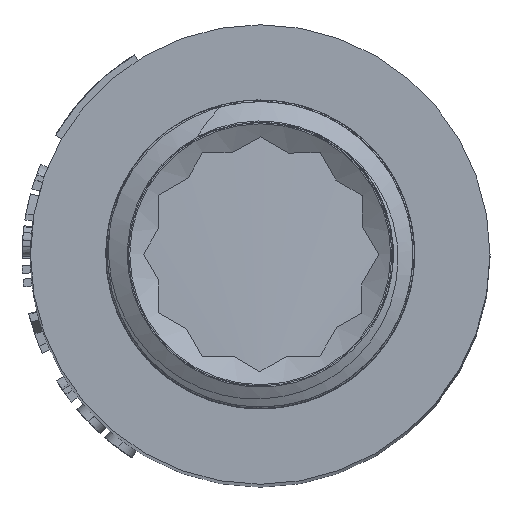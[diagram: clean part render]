
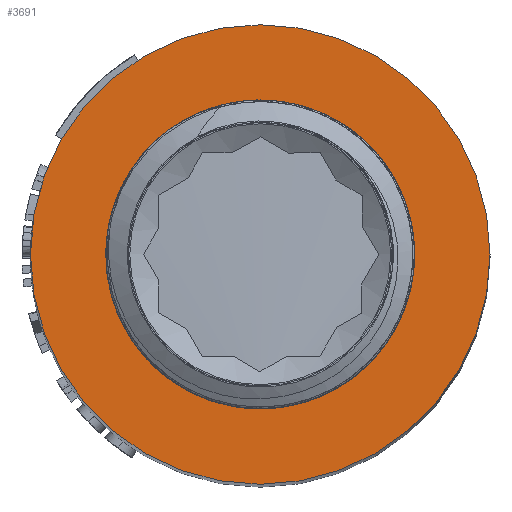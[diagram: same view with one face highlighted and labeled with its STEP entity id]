
A CAD part, top view. The second image highlights one B-rep face of the part: STEP entity #3691.
In plain terms, the highlighted planar face has unit normal (0, 0, 1).
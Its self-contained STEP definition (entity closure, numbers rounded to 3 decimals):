
#83=FACE_BOUND('',#831,.T.);
#448=PLANE('',#3942);
#605=FACE_OUTER_BOUND('',#830,.T.);
#830=EDGE_LOOP('',(#3121,#3122));
#831=EDGE_LOOP('',(#3123,#3124));
#1328=CIRCLE('',#3777,7.825);
#1331=CIRCLE('',#3780,7.825);
#1352=CIRCLE('',#3820,13.65);
#1353=CIRCLE('',#3821,13.65);
#1429=VERTEX_POINT('',#4725);
#1430=VERTEX_POINT('',#4726);
#1477=VERTEX_POINT('',#4973);
#1478=VERTEX_POINT('',#4974);
#1803=EDGE_CURVE('',#1429,#1430,#1328,.T.);
#1807=EDGE_CURVE('',#1430,#1429,#1331,.T.);
#1874=EDGE_CURVE('',#1477,#1478,#1352,.T.);
#1875=EDGE_CURVE('',#1478,#1477,#1353,.T.);
#3121=ORIENTED_EDGE('',*,*,#1874,.T.);
#3122=ORIENTED_EDGE('',*,*,#1875,.T.);
#3123=ORIENTED_EDGE('',*,*,#1803,.F.);
#3124=ORIENTED_EDGE('',*,*,#1807,.F.);
#3691=ADVANCED_FACE('',(#605,#83),#448,.T.);
#3777=AXIS2_PLACEMENT_3D('',#4727,#4024,#4025);
#3780=AXIS2_PLACEMENT_3D('',#4733,#4031,#4032);
#3820=AXIS2_PLACEMENT_3D('',#4975,#4147,#4148);
#3821=AXIS2_PLACEMENT_3D('',#4976,#4149,#4150);
#3942=AXIS2_PLACEMENT_3D('',#7280,#4529,#4530);
#4024=DIRECTION('center_axis',(0.,0.,1.));
#4025=DIRECTION('ref_axis',(1.,0.,0.));
#4031=DIRECTION('center_axis',(0.,0.,1.));
#4032=DIRECTION('ref_axis',(1.,0.,0.));
#4147=DIRECTION('center_axis',(0.,0.,1.));
#4148=DIRECTION('ref_axis',(1.,0.,0.));
#4149=DIRECTION('center_axis',(0.,0.,1.));
#4150=DIRECTION('ref_axis',(1.,0.,0.));
#4529=DIRECTION('center_axis',(0.,0.,1.));
#4530=DIRECTION('ref_axis',(1.,0.,0.));
#4725=CARTESIAN_POINT('',(0.,7.825,-10.));
#4726=CARTESIAN_POINT('',(0.,-7.825,-10.));
#4727=CARTESIAN_POINT('Origin',(0.,0.,-10.));
#4733=CARTESIAN_POINT('Origin',(0.,0.,-10.));
#4973=CARTESIAN_POINT('',(0.,-13.65,-10.));
#4974=CARTESIAN_POINT('',(0.,13.65,-10.));
#4975=CARTESIAN_POINT('Origin',(0.,0.,-10.));
#4976=CARTESIAN_POINT('Origin',(0.,0.,-10.));
#7280=CARTESIAN_POINT('Origin',(0.,-9.17,-10.));
